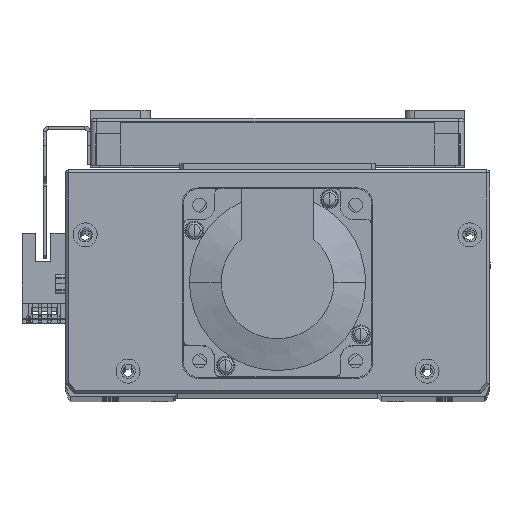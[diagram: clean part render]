
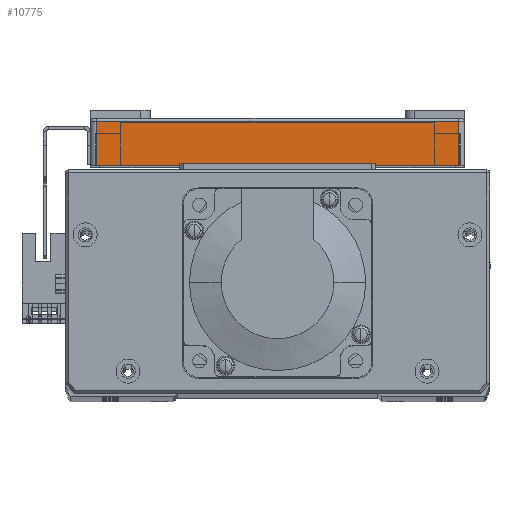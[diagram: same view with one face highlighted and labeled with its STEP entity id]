
A CAD part, top view. The second image highlights one B-rep face of the part: STEP entity #10775.
In plain terms, the highlighted planar face has unit normal (0, 0, 1) as drawn and (-1, 0, 0) by its records, which use the part's own axes.
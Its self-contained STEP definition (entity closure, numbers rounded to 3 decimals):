
#68 = PLANE ( 'NONE',  #43253 ) ;
#70 = CARTESIAN_POINT ( 'NONE',  ( -95., 15., -59.5 ) ) ;
#75 = DIRECTION ( 'NONE',  ( 1., 0., 0. ) ) ;
#77 = DIRECTION ( 'NONE',  ( 0., 0., -1. ) ) ;
#4010 = ORIENTED_EDGE ( 'NONE', *, *, #30377, .T. ) ;
#4013 = ORIENTED_EDGE ( 'NONE', *, *, #30323, .T. ) ;
#4043 = ORIENTED_EDGE ( 'NONE', *, *, #30369, .T. ) ;
#4056 = ORIENTED_EDGE ( 'NONE', *, *, #30358, .T. ) ;
#5471 = CARTESIAN_POINT ( 'NONE',  ( -95., 0., -59.5 ) ) ;
#5477 = DIRECTION ( 'NONE',  ( 0., 0., 1. ) ) ;
#5584 = CARTESIAN_POINT ( 'NONE',  ( -95., 15., 57.5 ) ) ;
#5585 = DIRECTION ( 'NONE',  ( 0., 1., 0. ) ) ;
#5597 = CARTESIAN_POINT ( 'NONE',  ( -95., 15., -57.5 ) ) ;
#5616 = CARTESIAN_POINT ( 'NONE',  ( -95., 14., -57.5 ) ) ;
#5618 = DIRECTION ( 'NONE',  ( 0., -1., 0. ) ) ;
#5659 = DIRECTION ( 'NONE',  ( 0., 0., -1. ) ) ;
#7273 = EDGE_LOOP ( 'NONE', ( #4056, #4010, #4043, #4013 ) ) ;
#10775 = ADVANCED_FACE ( 'NONE', ( #19313 ), #68, .F. ) ;
#12574 = LINE ( 'NONE', #5471, #12579 ) ;
#12579 = VECTOR ( 'NONE', #5477, 1000. ) ;
#12662 = LINE ( 'NONE', #5584, #12663 ) ;
#12663 = VECTOR ( 'NONE', #5585, 1000. ) ;
#12707 = LINE ( 'NONE', #5597, #12756 ) ;
#12719 = VECTOR ( 'NONE', #5659, 1000. ) ;
#12725 = LINE ( 'NONE', #5616, #12719 ) ;
#12756 = VECTOR ( 'NONE', #5618, 1000. ) ;
#14849 = CARTESIAN_POINT ( 'NONE',  ( -95., 0., 57.5 ) ) ;
#14891 = CARTESIAN_POINT ( 'NONE',  ( -95., 14., -57.5 ) ) ;
#14919 = CARTESIAN_POINT ( 'NONE',  ( -95., 14., 57.5 ) ) ;
#14938 = CARTESIAN_POINT ( 'NONE',  ( -95., 0., -57.5 ) ) ;
#19313 = FACE_OUTER_BOUND ( 'NONE', #7273, .T. ) ;
#30323 = EDGE_CURVE ( 'NONE', #50989, #50966, #12574, .T. ) ;
#30358 = EDGE_CURVE ( 'NONE', #50966, #50994, #12662, .T. ) ;
#30369 = EDGE_CURVE ( 'NONE', #50977, #50989, #12707, .T. ) ;
#30377 = EDGE_CURVE ( 'NONE', #50994, #50977, #12725, .T. ) ;
#43253 = AXIS2_PLACEMENT_3D ( 'NONE', #70, #75, #77 ) ;
#50966 = VERTEX_POINT ( 'NONE', #14849 ) ;
#50977 = VERTEX_POINT ( 'NONE', #14891 ) ;
#50989 = VERTEX_POINT ( 'NONE', #14938 ) ;
#50994 = VERTEX_POINT ( 'NONE', #14919 ) ;
